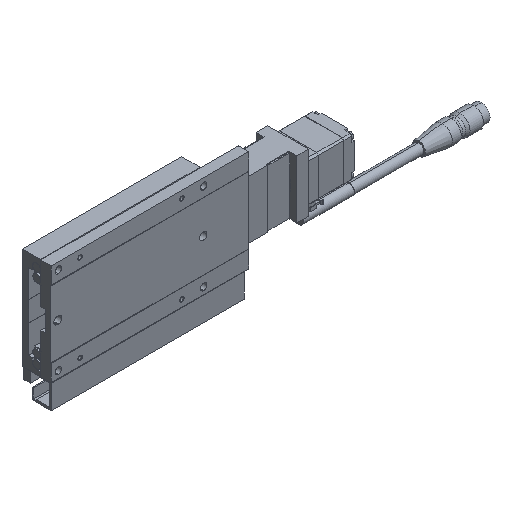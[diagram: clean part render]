
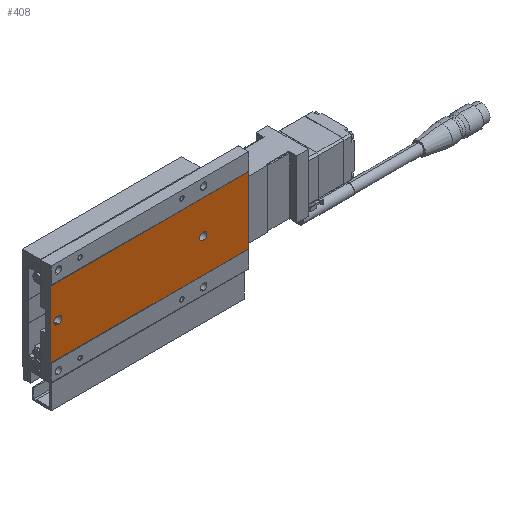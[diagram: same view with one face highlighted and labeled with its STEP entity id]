
A CAD part, isometric view. The second image highlights one B-rep face of the part: STEP entity #408.
In plain terms, the highlighted planar face has unit normal (0, -1, 0).
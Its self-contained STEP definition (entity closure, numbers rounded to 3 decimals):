
#408=ADVANCED_FACE('',(#1174,#1175,#1176),#1177,.F.);
#1174=FACE_BOUND('',#2606,.T.);
#1175=FACE_OUTER_BOUND('',#2607,.T.);
#1176=FACE_BOUND('',#2608,.T.);
#1177=PLANE('',#2609);
#2606=EDGE_LOOP('',(#4581,#4582,#4583,#4584));
#2607=EDGE_LOOP('',(#4585,#4586,#4587,#4588));
#2608=EDGE_LOOP('',(#4589,#4590,#4591));
#2609=AXIS2_PLACEMENT_3D('',#4592,#4593,#4594);
#4581=ORIENTED_EDGE('',*,*,#9403,.F.);
#4582=ORIENTED_EDGE('',*,*,#9404,.F.);
#4583=ORIENTED_EDGE('',*,*,#9405,.F.);
#4584=ORIENTED_EDGE('',*,*,#9406,.F.);
#4585=ORIENTED_EDGE('',*,*,#9388,.T.);
#4586=ORIENTED_EDGE('',*,*,#9407,.F.);
#4587=ORIENTED_EDGE('',*,*,#9408,.F.);
#4588=ORIENTED_EDGE('',*,*,#9409,.T.);
#4589=ORIENTED_EDGE('',*,*,#9288,.F.);
#4590=ORIENTED_EDGE('',*,*,#9287,.F.);
#4591=ORIENTED_EDGE('',*,*,#9410,.F.);
#4592=CARTESIAN_POINT('',(81.0,0.3,23.1));
#4593=DIRECTION('',(0.0,1.0,0.));
#4594=DIRECTION('',(1.0,0.0,0.0));
#9287=EDGE_CURVE('',#11040,#11042,#11043,.F.);
#9288=EDGE_CURVE('',#11042,#11036,#11044,.F.);
#9388=EDGE_CURVE('',#11231,#11229,#11232,.T.);
#9403=EDGE_CURVE('',#11259,#11260,#11261,.F.);
#9404=EDGE_CURVE('',#11262,#11259,#11263,.T.);
#9405=EDGE_CURVE('',#11264,#11262,#11265,.F.);
#9406=EDGE_CURVE('',#11260,#11264,#11266,.T.);
#9407=EDGE_CURVE('',#11267,#11229,#11268,.T.);
#9408=EDGE_CURVE('',#11269,#11267,#11270,.T.);
#9409=EDGE_CURVE('',#11269,#11231,#11271,.T.);
#9410=EDGE_CURVE('',#11036,#11040,#11272,.F.);
#11036=VERTEX_POINT('',#13835);
#11040=VERTEX_POINT('',#13840);
#11042=VERTEX_POINT('',#13843);
#11043=CIRCLE('',#13844,2.5);
#11044=CIRCLE('',#13845,2.5);
#11229=VERTEX_POINT('',#14086);
#11231=VERTEX_POINT('',#14089);
#11232=LINE('',#14090,#14091);
#11259=VERTEX_POINT('',#14131);
#11260=VERTEX_POINT('',#14132);
#11261=CIRCLE('',#14133,2.5);
#11262=VERTEX_POINT('',#14134);
#11263=LINE('',#14135,#14136);
#11264=VERTEX_POINT('',#14137);
#11265=CIRCLE('',#14138,2.5);
#11266=LINE('',#14139,#14140);
#11267=VERTEX_POINT('',#14141);
#11268=LINE('',#14142,#14143);
#11269=VERTEX_POINT('',#14144);
#11270=LINE('',#14145,#14146);
#11271=LINE('',#14147,#14148);
#11272=CIRCLE('',#14149,2.5);
#13835=CARTESIAN_POINT('',(47.5,0.3,0.));
#13840=CARTESIAN_POINT('',(52.5,0.3,0.));
#13843=CARTESIAN_POINT('',(50.0,0.3,2.5));
#13844=AXIS2_PLACEMENT_3D('',#17507,#17508,#17509);
#13845=AXIS2_PLACEMENT_3D('',#17510,#17511,#17512);
#14086=CARTESIAN_POINT('',(-55.0,0.3,-23.1));
#14089=CARTESIAN_POINT('',(-55.0,0.3,23.1));
#14090=CARTESIAN_POINT('',(-55.0,0.3,23.1));
#14091=VECTOR('',#17696,1000.0);
#14131=CARTESIAN_POINT('',(-50.25,0.3,2.5));
#14132=CARTESIAN_POINT('',(-50.25,0.3,-2.5));
#14133=AXIS2_PLACEMENT_3D('',#17713,#17714,#17715);
#14134=CARTESIAN_POINT('',(-49.75,0.3,2.5));
#14135=CARTESIAN_POINT('',(81.0,0.3,2.5));
#14136=VECTOR('',#17716,1000.0);
#14137=CARTESIAN_POINT('',(-49.75,0.3,-2.5));
#14138=AXIS2_PLACEMENT_3D('',#17717,#17718,#17719);
#14139=CARTESIAN_POINT('',(81.0,0.3,-2.5));
#14140=VECTOR('',#17720,1000.0);
#14141=CARTESIAN_POINT('',(81.0,0.3,-23.1));
#14142=CARTESIAN_POINT('',(81.0,0.3,-23.1));
#14143=VECTOR('',#17721,1000.0);
#14144=CARTESIAN_POINT('',(81.0,0.3,23.1));
#14145=CARTESIAN_POINT('',(81.0,0.3,23.1));
#14146=VECTOR('',#17722,1000.0);
#14147=CARTESIAN_POINT('',(81.0,0.3,23.1));
#14148=VECTOR('',#17723,1000.0);
#14149=AXIS2_PLACEMENT_3D('',#17724,#17725,#17726);
#17507=CARTESIAN_POINT('',(50.0,0.3,0.0));
#17508=DIRECTION('',(0.0,1.0,0.));
#17509=DIRECTION('',(0.0,0.,1.0));
#17510=CARTESIAN_POINT('',(50.0,0.3,0.0));
#17511=DIRECTION('',(0.0,1.0,0.));
#17512=DIRECTION('',(0.0,0.,1.0));
#17696=DIRECTION('',(0.0,0.,-1.0));
#17713=CARTESIAN_POINT('',(-50.25,0.3,0.));
#17714=DIRECTION('',(0.0,1.0,0.));
#17715=DIRECTION('',(0.0,0.,1.0));
#17716=DIRECTION('',(-1.0,0.0,0.0));
#17717=CARTESIAN_POINT('',(-49.75,0.3,0.));
#17718=DIRECTION('',(0.0,1.0,0.));
#17719=DIRECTION('',(0.0,0.,1.0));
#17720=DIRECTION('',(1.0,0.0,0.0));
#17721=DIRECTION('',(-1.0,0.0,0.0));
#17722=DIRECTION('',(0.0,0.,-1.0));
#17723=DIRECTION('',(-1.0,0.0,0.0));
#17724=CARTESIAN_POINT('',(50.0,0.3,0.0));
#17725=DIRECTION('',(0.0,1.0,0.));
#17726=DIRECTION('',(0.0,0.,1.0));
